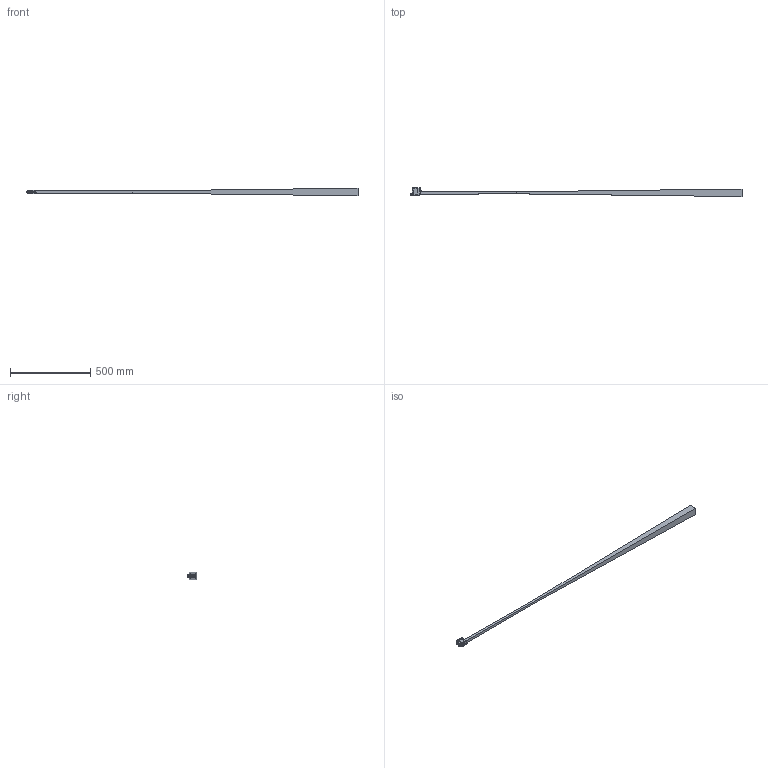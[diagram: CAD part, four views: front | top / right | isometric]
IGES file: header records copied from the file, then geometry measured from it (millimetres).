
Global section: file name: 622-21001_FT 55-R-NS-L4; native system: Autodesk Inventor 2022; preprocessor: unknown; author: Sandra.Stahl; date: 20230126.000102; units: millimetre
Bounding box: 2062.38 x 56.9 x 47 mm (x, y, z)
Volume: 1593293.1 mm3; surface area: 218596.1 mm2
Topology: 4 solids, 4 shells, 186 faces, 464 edges, 298 vertices
Faces by surface type: bspline 186
